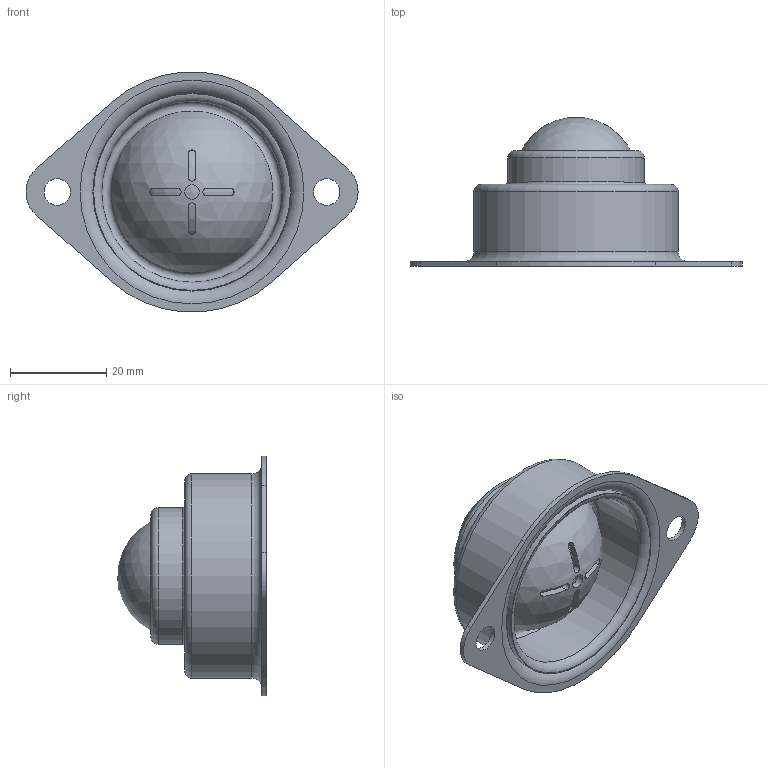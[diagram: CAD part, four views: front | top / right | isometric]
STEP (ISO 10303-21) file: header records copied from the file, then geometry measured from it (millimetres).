
FILE_DESCRIPTION(/* description */ (''),/* implementation_level */ '2;1');
FILE_NAME(/* name */ '\\Cad-sv\共有\ISB\35-j-ito\製品モデル\IM\IM-25\座金レス仕様\3125AA(HP用).stp',/* time_stamp */ '2021-04-19T09:35:12+09:00',/* author */ ('j-ito'),/* organization */ (''),/* preprocessor_version */ 'ST-DEVELOPER v18.1',/* originating_system */ 'Autodesk Inventor 2022',/* authorisation */ '');
FILE_SCHEMA (('AUTOMOTIVE_DESIGN { 1 0 10303 214 3 1 1 }'));
Length unit declared in the file: millimetre
Products named in the file (1): IM-25
Bounding box: 69 x 30.92 x 49.84 mm (x, y, z)
Volume: 18754.9 mm3; surface area: 12611.9 mm2
Topology: 1 solids, 1 shells, 55 faces, 135 edges, 91 vertices
Faces by surface type: plane 23, cylinder 20, torus 8, sphere 4
Full cylindrical faces by diameter (mm): 3 x1, 5.5 x2, 28.4 x1, 37.5 x1, 40.5 x1, 41.2 x1, 42.5 x1
Entity records: 1969 total; most frequent: CARTESIAN_POINT 558, DIRECTION 302, ORIENTED_EDGE 270, EDGE_CURVE 135, AXIS2_PLACEMENT_3D 131, VERTEX_POINT 91, EDGE_LOOP 76, CIRCLE 75
